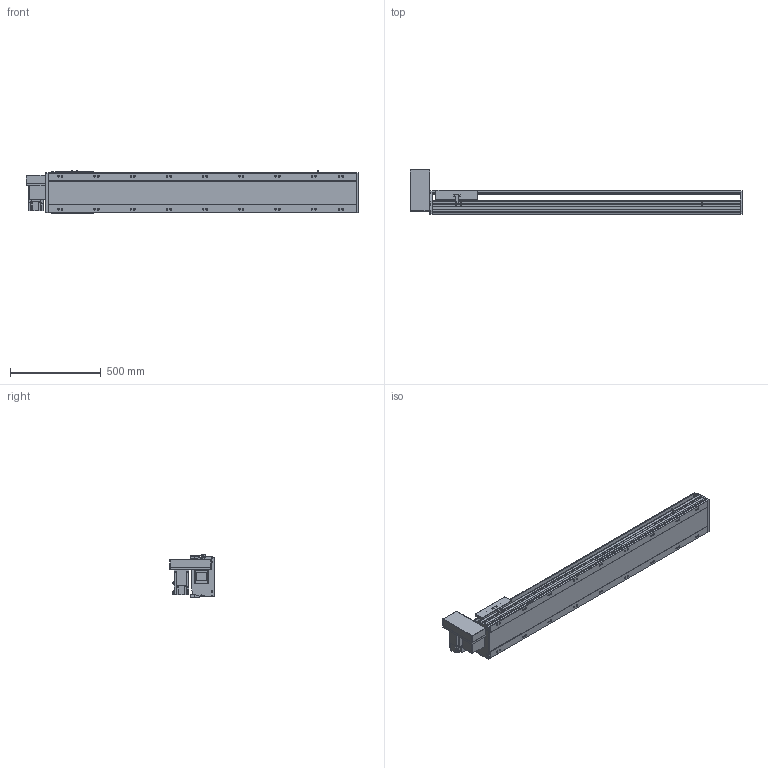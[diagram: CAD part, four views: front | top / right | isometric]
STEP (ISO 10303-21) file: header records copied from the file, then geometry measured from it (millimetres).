
FILE_DESCRIPTION(/* description */ ('STEP AP214'),/* implementation_level */ '2;1');
FILE_NAME(/* name */ 'PBS220-P40-S1350-RU-T75-C1-N(0)',/* time_stamp */ '2022-06-13T02:54:39+02:00',/* author */ ('License CC BY-ND 4.0'),/* organization */ ('CADENAS'),/* preprocessor_version */ 'ST-DEVELOPER v18.102',/* originating_system */ 'PARTsolutions',/* authorisation */ ' ');
FILE_SCHEMA (('AUTOMOTIVE_DESIGN {1 0 10303 214 3 1 1}'));
Length unit declared in the file: millimetre
Products named in the file (7): PBS220-P40-S1350-RU-T75-C1-N(0); PBS220_sensor; PBS220_plant; PBS220_sliser; T75-p1; PBS220T-RU_motors; PBS220-S1350()_body
Assembly tree (8 placements, depth 2):
  PBS220-P40-S1350-RU-T75-C1-N(0)
    PBS220_sensor  x3
    PBS220_plant
    PBS220_sliser
    T75-p1
    PBS220T-RU_motors
    PBS220-S1350()_body
Bounding box: 1834 x 247 x 238.5 mm (x, y, z)
Volume: 26172397 mm3; surface area: 2500973.8 mm2
Topology: 8 solids, 8 shells, 926 faces, 2424 edges, 1576 vertices
Faces by surface type: plane 602, cylinder 282, cone 42
Full cylindrical faces by diameter (mm): 2.013 x4, 4.5 x14, 4.917 x4, 6 x7, 6.647 x8, 8 x10, 8.376 x18, 8.5 x18, 10 x6, 14 x18, 38 x2, 40 x1, 70 x1
Entity records: 25941 total; most frequent: CARTESIAN_POINT 4558, DIRECTION 4509, ORIENTED_EDGE 4142, EDGE_CURVE 2071, AXIS2_PLACEMENT_3D 1581, VERTEX_POINT 1432, LINE 1347, VECTOR 1347
